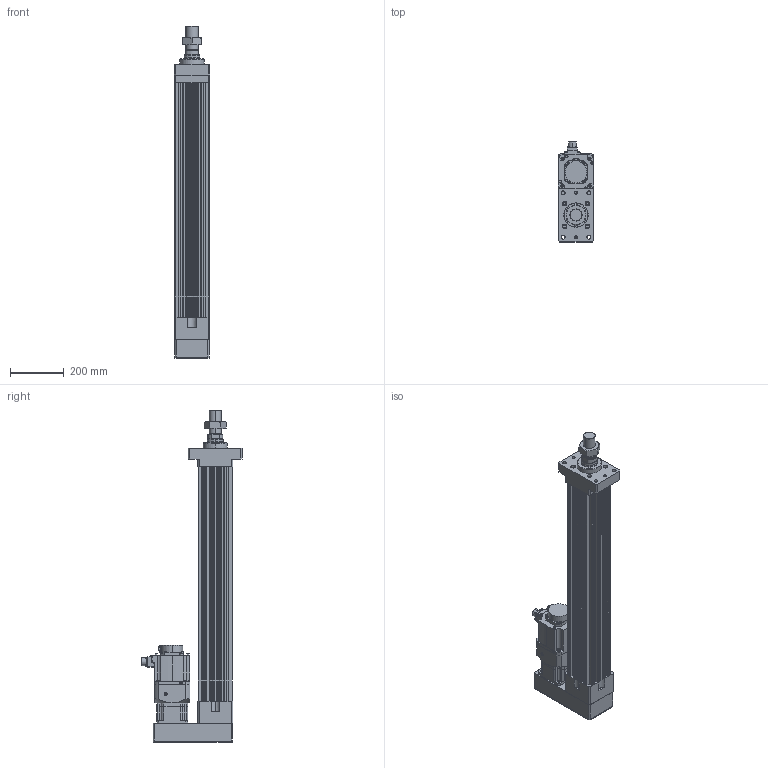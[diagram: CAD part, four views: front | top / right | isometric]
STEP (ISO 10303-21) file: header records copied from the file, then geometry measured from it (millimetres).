
FILE_DESCRIPTION (( 'STEP AP203' ), '1' );
FILE_NAME ('HES130NS(FS)(HS)-P650-W015G00-M-FMB.STEP', '2023-01-29T05:48:09', ( 'tms' ), ( '' ), 'SwSTEP 2.0', 'SolidWorks 2013', '' );
FILE_SCHEMA (( 'CONFIG_CONTROL_DESIGN' ));
Length unit declared in the file: millimetre
Products named in the file (8): AB1151; HES130 ROD M ST650; HES130NS(FS)(HS)-P650-W015G00-M-FMB; P0401400706; M45X1.5P; HG-SR152; AB115-003[HG-SR152]; HES130-P650-G120-FMB
Assembly tree (7 placements, depth 3):
  HES130NS(FS)(HS)-P650-W015G00-M-FMB
    HES130-P650-G120-FMB
    HES130 ROD M ST650
    M45X1.5P
    AB115-003[HG-SR152]
      AB1151
      P0401400706
    HG-SR152
Bounding box: 130 x 372.49 x 1232 mm (x, y, z)
Volume: 13650015 mm3; surface area: 1673374.7 mm2
Topology: 4 solids, 11 shells, 1082 faces, 2768 edges, 1799 vertices
Faces by surface type: cylinder 513, plane 489, cone 68, bspline 8, torus 4
Entity records: 34626 total; most frequent: CARTESIAN_POINT 6632, DIRECTION 5993, ORIENTED_EDGE 5484, EDGE_CURVE 2752, AXIS2_PLACEMENT_3D 2228, VERTEX_POINT 1799, VECTOR 1537, LINE 1537
